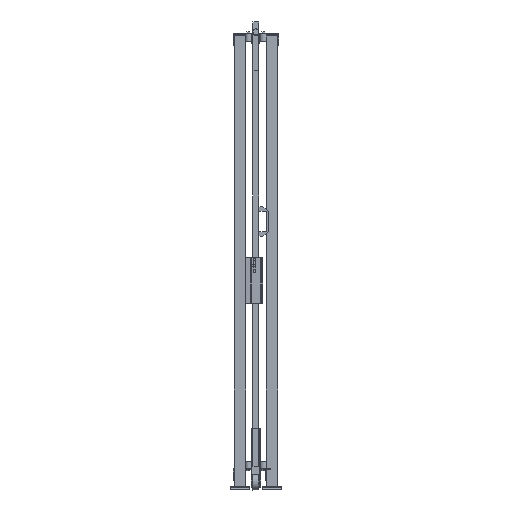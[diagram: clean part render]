
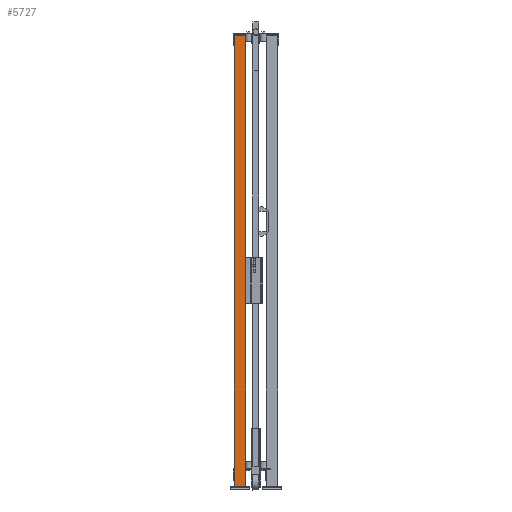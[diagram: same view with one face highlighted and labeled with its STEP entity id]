
A CAD part, left-side view. The second image highlights one B-rep face of the part: STEP entity #5727.
In plain terms, the highlighted planar face has unit normal (-1, 0, 0) as drawn and (0, 1, 0) by its records, which use the part's own axes.
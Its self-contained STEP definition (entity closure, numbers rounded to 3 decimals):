
#554=FACE_OUTER_BOUND('',#991,.T.);
#991=EDGE_LOOP('',(#3558,#3559,#3560,#3561));
#1479=VERTEX_POINT('',#12412);
#1480=VERTEX_POINT('',#12414);
#1482=VERTEX_POINT('',#12420);
#1485=VERTEX_POINT('',#12425);
#2293=EDGE_CURVE('',#1479,#1480,#6824,.T.);
#2299=EDGE_CURVE('',#1485,#1482,#6830,.T.);
#2302=EDGE_CURVE('',#1480,#1485,#6833,.T.);
#2303=EDGE_CURVE('',#1479,#1482,#6834,.T.);
#3558=ORIENTED_EDGE('',*,*,#2303,.T.);
#3559=ORIENTED_EDGE('',*,*,#2299,.F.);
#3560=ORIENTED_EDGE('',*,*,#2302,.F.);
#3561=ORIENTED_EDGE('',*,*,#2293,.F.);
#5334=PLANE('',#8771);
#5727=ADVANCED_FACE('',(#554),#5334,.F.);
#6824=LINE('',#12415,#7891);
#6830=LINE('',#12427,#7897);
#6833=LINE('',#12432,#7900);
#6834=LINE('',#12434,#7901);
#7891=VECTOR('',#9772,1.);
#7897=VECTOR('',#9780,1.);
#7900=VECTOR('',#9787,1.);
#7901=VECTOR('',#9790,1.);
#8771=AXIS2_PLACEMENT_3D('',#12433,#9788,#9789);
#9772=DIRECTION('',(-1.,0.,0.));
#9780=DIRECTION('',(1.,0.,0.));
#9787=DIRECTION('',(0.,0.,-1.));
#9788=DIRECTION('center_axis',(0.,-1.,0.));
#9789=DIRECTION('ref_axis',(0.,0.,-1.));
#9790=DIRECTION('',(0.,0.,-1.));
#12412=CARTESIAN_POINT('',(30.,30.,2320.));
#12414=CARTESIAN_POINT('',(-30.,30.,2320.));
#12415=CARTESIAN_POINT('',(0.,30.,2320.));
#12420=CARTESIAN_POINT('',(30.,30.,20.));
#12425=CARTESIAN_POINT('',(-30.,30.,20.));
#12427=CARTESIAN_POINT('',(0.,30.,20.));
#12432=CARTESIAN_POINT('',(-30.,30.,1170.));
#12433=CARTESIAN_POINT('Origin',(0.,30.,
1170.));
#12434=CARTESIAN_POINT('',(30.,30.,1170.));
